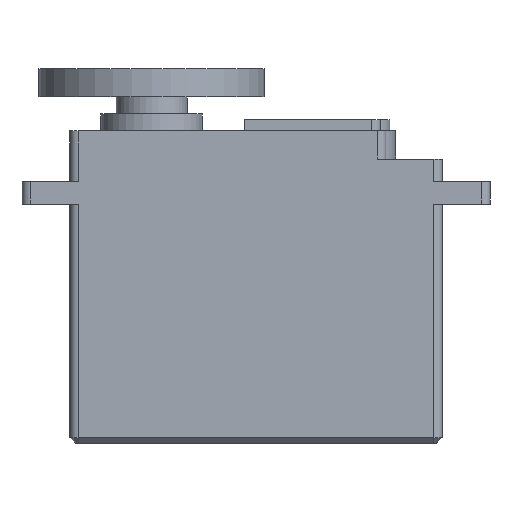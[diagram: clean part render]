
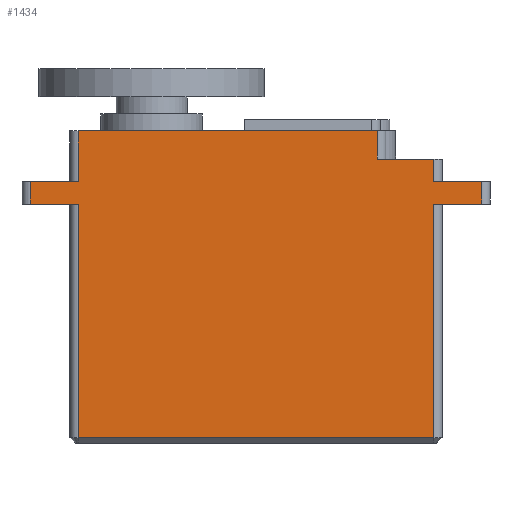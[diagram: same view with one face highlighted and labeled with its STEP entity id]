
A CAD part, left-side view. The second image highlights one B-rep face of the part: STEP entity #1434.
In plain terms, the highlighted planar face has unit normal (-1, 0, 0).
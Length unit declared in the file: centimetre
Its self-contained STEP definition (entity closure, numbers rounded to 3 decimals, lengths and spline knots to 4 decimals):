
#366=VERTEX_POINT('',#5584);
#370=VERTEX_POINT('',#5596);
#390=VERTEX_POINT('',#5654);
#392=VERTEX_POINT('',#5662);
#393=VERTEX_POINT('',#5664);
#394=VERTEX_POINT('',#5668);
#406=VERTEX_POINT('',#5694);
#407=VERTEX_POINT('',#5696);
#408=VERTEX_POINT('',#5698);
#409=VERTEX_POINT('',#5700);
#410=VERTEX_POINT('',#5702);
#411=VERTEX_POINT('',#5704);
#412=VERTEX_POINT('',#5706);
#413=VERTEX_POINT('',#5708);
#525=EDGE_CURVE('',#370,#366,#2805,.T.);
#554=EDGE_CURVE('',#366,#390,#2827,.T.);
#560=EDGE_CURVE('',#393,#392,#2830,.T.);
#561=EDGE_CURVE('',#394,#392,#2831,.T.);
#574=EDGE_CURVE('',#406,#370,#2838,.T.);
#575=EDGE_CURVE('',#407,#406,#2839,.T.);
#576=EDGE_CURVE('',#408,#407,#2840,.T.);
#577=EDGE_CURVE('',#408,#409,#2841,.T.);
#578=EDGE_CURVE('',#410,#409,#2842,.T.);
#579=EDGE_CURVE('',#410,#411,#2843,.T.);
#580=EDGE_CURVE('',#394,#411,#2844,.T.);
#581=EDGE_CURVE('',#393,#412,#2841,.T.);
#582=EDGE_CURVE('',#413,#412,#2845,.T.);
#583=EDGE_CURVE('',#390,#413,#2846,.T.);
#818=ORIENTED_EDGE('',*,*,#525,.F.);
#819=ORIENTED_EDGE('',*,*,#574,.F.);
#820=ORIENTED_EDGE('',*,*,#575,.F.);
#821=ORIENTED_EDGE('',*,*,#576,.F.);
#822=ORIENTED_EDGE('',*,*,#577,.T.);
#823=ORIENTED_EDGE('',*,*,#578,.F.);
#824=ORIENTED_EDGE('',*,*,#579,.T.);
#825=ORIENTED_EDGE('',*,*,#580,.F.);
#826=ORIENTED_EDGE('',*,*,#561,.T.);
#827=ORIENTED_EDGE('',*,*,#560,.F.);
#828=ORIENTED_EDGE('',*,*,#581,.T.);
#829=ORIENTED_EDGE('',*,*,#582,.F.);
#830=ORIENTED_EDGE('',*,*,#583,.F.);
#831=ORIENTED_EDGE('',*,*,#554,.F.);
#1156=EDGE_LOOP('',(#818,#819,#820,#821,#822,#823,#824,#825,#826,#827,#828,
#829,#830,#831));
#1296=FACE_BOUND('',#1156,.T.);
#1434=ADVANCED_FACE('',(#1296),#4368,.T.);
#2805=LINE('',#5597,#4236);
#2827=LINE('',#5653,#4258);
#2830=LINE('',#5665,#4261);
#2831=LINE('',#5667,#4262);
#2838=LINE('',#5693,#4269);
#2839=LINE('',#5695,#4270);
#2840=LINE('',#5697,#4271);
#2841=LINE('',#5699,#4272);
#2842=LINE('',#5701,#4273);
#2843=LINE('',#5703,#4274);
#2844=LINE('',#5705,#4275);
#2845=LINE('',#5707,#4276);
#2846=LINE('',#5709,#4277);
#3937=AXIS2_PLACEMENT_3D('',#5692,#4848,$);
#4236=VECTOR('',#4767,1.);
#4258=VECTOR('',#4815,1.);
#4261=VECTOR('',#4827,1.);
#4262=VECTOR('',#4829,1.);
#4269=VECTOR('',#4849,1.);
#4270=VECTOR('',#4850,1.);
#4271=VECTOR('',#4851,1.);
#4272=VECTOR('',#4852,1.);
#4273=VECTOR('',#4853,1.);
#4274=VECTOR('',#4854,1.);
#4275=VECTOR('',#4855,1.);
#4276=VECTOR('',#4856,1.);
#4277=VECTOR('',#4857,1.);
#4368=PLANE('',#3937);
#4767=DIRECTION('',(0.,1.,0.));
#4815=DIRECTION('',(0.,0.,1.));
#4827=DIRECTION('',(0.,0.,1.));
#4829=DIRECTION('',(0.,1.,0.));
#4848=DIRECTION('',(-1.,0.,0.));
#4849=DIRECTION('',(0.,0.,-1.));
#4850=DIRECTION('',(0.,1.,0.));
#4851=DIRECTION('',(0.,0.,-1.));
#4852=DIRECTION('',(0.,1.,0.));
#4853=DIRECTION('',(0.,0.,-1.));
#4854=DIRECTION('',(0.,1.,0.));
#4855=DIRECTION('',(0.,0.,-1.));
#4856=DIRECTION('',(0.,0.,1.));
#4857=DIRECTION('',(0.,1.,0.));
#5584=CARTESIAN_POINT('',(-3.,6.45,0.1));
#5596=CARTESIAN_POINT('',(-3.,0.15,0.1));
#5597=CARTESIAN_POINT('',(-3.,3.3,0.1));
#5653=CARTESIAN_POINT('',(-3.,6.45,0.));
#5654=CARTESIAN_POINT('',(-3.,6.45,4.24));
#5662=CARTESIAN_POINT('',(-3.,6.45,5.54));
#5664=CARTESIAN_POINT('',(-3.,6.45,4.64));
#5665=CARTESIAN_POINT('',(-3.,6.45,2.32));
#5667=CARTESIAN_POINT('',(-3.,6.6,5.54));
#5668=CARTESIAN_POINT('',(-3.,1.15,5.54));
#5692=CARTESIAN_POINT('',(-3.,3.3,0.));
#5693=CARTESIAN_POINT('',(-3.,0.15,0.));
#5694=CARTESIAN_POINT('',(-3.,0.15,4.24));
#5695=CARTESIAN_POINT('',(-3.,3.3,4.24));
#5696=CARTESIAN_POINT('',(-3.,-0.7,4.24));
#5697=CARTESIAN_POINT('',(-3.,-0.7,2.12));
#5698=CARTESIAN_POINT('',(-3.,-0.7,4.64));
#5699=CARTESIAN_POINT('',(-3.,7.45,4.64));
#5700=CARTESIAN_POINT('',(-3.,0.15,4.64));
#5701=CARTESIAN_POINT('',(-3.,0.15,2.32));
#5702=CARTESIAN_POINT('',(-3.,0.15,5.04));
#5703=CARTESIAN_POINT('',(-3.,6.6,5.04));
#5704=CARTESIAN_POINT('',(-3.,1.15,5.04));
#5705=CARTESIAN_POINT('',(-3.,1.15,2.52));
#5706=CARTESIAN_POINT('',(-3.,7.3,4.64));
#5707=CARTESIAN_POINT('',(-3.,7.3,2.12));
#5708=CARTESIAN_POINT('',(-3.,7.3,4.24));
#5709=CARTESIAN_POINT('',(-3.,3.3,4.24));
